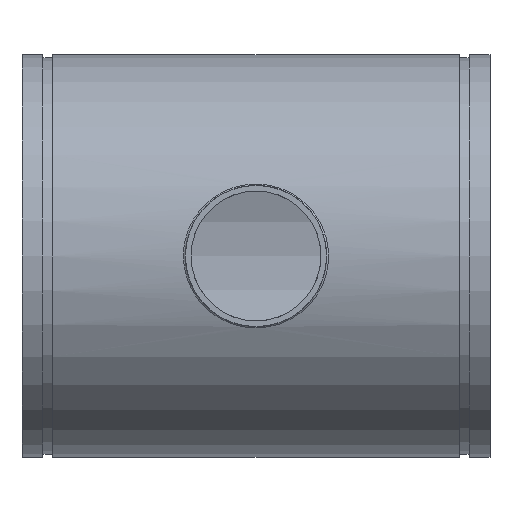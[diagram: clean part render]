
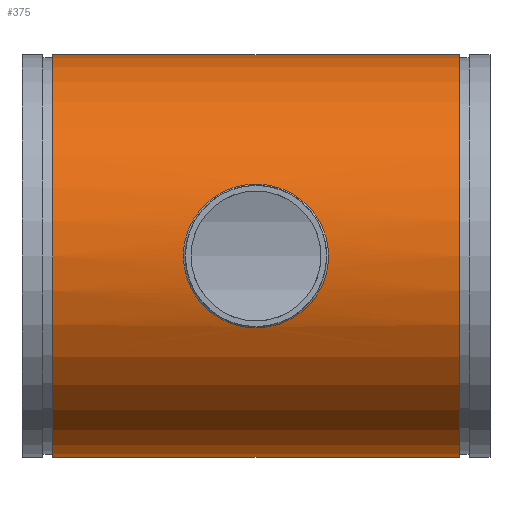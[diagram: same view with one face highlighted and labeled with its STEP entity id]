
A CAD part, front view. The second image highlights one B-rep face of the part: STEP entity #375.
In plain terms, the highlighted cylindrical face has radius 327.66 mm (diameter 655.32 mm), a full revolution.
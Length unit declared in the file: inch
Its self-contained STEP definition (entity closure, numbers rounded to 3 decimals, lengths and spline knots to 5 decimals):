
#54=FACE_BOUND('',#119,.T.);
#65=LINE('',#798,#76);
#76=VECTOR('',#483,12.9);
#87=CYLINDRICAL_SURFACE('',#415,12.9);
#98=FACE_OUTER_BOUND('',#118,.T.);
#118=EDGE_LOOP('',(#266,#267,#268,#269));
#119=EDGE_LOOP('',(#270));
#150=B_SPLINE_CURVE_WITH_KNOTS('',3,(#769,#770,#771,#772,#773,#774,#775,
#776,#777,#778,#779,#780,#781,#782,#783,#784,#785,#786,#787,#788,#789,#790,
#791,#792,#793),.UNSPECIFIED.,.T.,.F.,(4,1,1,1,1,1,1,1,1,1,1,1,1,1,1,1,
1,1,1,1,1,1,4),(-69.9195,-67.42237,-64.92525,-59.931,
-56.6015,-54.93675,-53.272,-49.9425,
-46.613,-43.2835,-39.954,-36.6245,
-33.295,-29.9655,-26.636,-23.3065,
-19.977,-16.6475,-13.318,-9.9885,
-4.99425,-2.49712,0.),.UNSPECIFIED.);
#154=CIRCLE('',#416,12.9);
#155=CIRCLE('',#417,12.9);
#182=VERTEX_POINT('',#736);
#185=VERTEX_POINT('',#795);
#186=VERTEX_POINT('',#797);
#219=EDGE_CURVE('',#182,#182,#150,.T.);
#220=EDGE_CURVE('',#185,#185,#154,.T.);
#221=EDGE_CURVE('',#185,#186,#65,.T.);
#222=EDGE_CURVE('',#186,#186,#155,.T.);
#266=ORIENTED_EDGE('',*,*,#220,.T.);
#267=ORIENTED_EDGE('',*,*,#221,.T.);
#268=ORIENTED_EDGE('',*,*,#222,.T.);
#269=ORIENTED_EDGE('',*,*,#221,.F.);
#270=ORIENTED_EDGE('',*,*,#219,.F.);
#375=ADVANCED_FACE('',(#98,#54),#87,.T.);
#415=AXIS2_PLACEMENT_3D('',#794,#479,#480);
#416=AXIS2_PLACEMENT_3D('',#796,#481,#482);
#417=AXIS2_PLACEMENT_3D('',#799,#484,#485);
#479=DIRECTION('center_axis',(-1.,0.,0.));
#480=DIRECTION('ref_axis',(0.,-1.,0.));
#481=DIRECTION('center_axis',(1.,0.,0.));
#482=DIRECTION('ref_axis',(0.,-1.,0.));
#483=DIRECTION('',(1.,0.,0.));
#484=DIRECTION('center_axis',(-1.,0.,0.));
#485=DIRECTION('ref_axis',(0.,-1.,0.));
#736=CARTESIAN_POINT('',(0.,-12.04992,-4.60537));
#769=CARTESIAN_POINT('Ctrl Pts',(0.,-12.04992,
-4.60537));
#770=CARTESIAN_POINT('Ctrl Pts',(0.35076,-12.04992,-4.60537));
#771=CARTESIAN_POINT('Ctrl Pts',(1.05198,-12.08061,-4.52619));
#772=CARTESIAN_POINT('Ctrl Pts',(2.37502,-12.24932,-4.06415));
#773=CARTESIAN_POINT('Ctrl Pts',(3.56841,-12.54413,-3.11881));
#774=CARTESIAN_POINT('Ctrl Pts',(4.2716,-12.76966,-1.91941));
#775=CARTESIAN_POINT('Ctrl Pts',(4.54867,-12.86416,-1.03655));
#776=CARTESIAN_POINT('Ctrl Pts',(4.68988,-12.91426,-0.11922));
#777=CARTESIAN_POINT('Ctrl Pts',(4.60041,-12.88181,1.05));
#778=CARTESIAN_POINT('Ctrl Pts',(4.08124,-12.7043,2.34679));
#779=CARTESIAN_POINT('Ctrl Pts',(3.20991,-12.44962,3.42516));
#780=CARTESIAN_POINT('Ctrl Pts',(2.05844,-12.20035,4.2062));
#781=CARTESIAN_POINT('Ctrl Pts',(0.71094,-12.04356,4.62257));
#782=CARTESIAN_POINT('Ctrl Pts',(-0.71093,-12.04346,4.62267));
#783=CARTESIAN_POINT('Ctrl Pts',(-2.05839,-12.2004,4.20616));
#784=CARTESIAN_POINT('Ctrl Pts',(-3.20991,-12.44961,3.42519));
#785=CARTESIAN_POINT('Ctrl Pts',(-4.08126,-12.70431,2.34677));
#786=CARTESIAN_POINT('Ctrl Pts',(-4.60033,-12.8818,1.05012));
#787=CARTESIAN_POINT('Ctrl Pts',(-4.70799,-12.92081,-0.35315));
#788=CARTESIAN_POINT('Ctrl Pts',(-4.38897,-12.80736,-1.71968));
#789=CARTESIAN_POINT('Ctrl Pts',(-3.56831,-12.54404,-3.11871));
#790=CARTESIAN_POINT('Ctrl Pts',(-2.37504,-12.24936,-4.06422));
#791=CARTESIAN_POINT('Ctrl Pts',(-1.05197,-12.08059,-4.52617));
#792=CARTESIAN_POINT('Ctrl Pts',(-0.35076,-12.04992,-4.60537));
#793=CARTESIAN_POINT('Ctrl Pts',(0.,-12.04992,
-4.60537));
#794=CARTESIAN_POINT('Origin',(15.,0.,0.));
#795=CARTESIAN_POINT('',(-13.035,12.9,0.));
#796=CARTESIAN_POINT('Origin',(-13.035,0.,0.));
#797=CARTESIAN_POINT('',(13.035,12.9,0.));
#798=CARTESIAN_POINT('',(15.,12.9,0.));
#799=CARTESIAN_POINT('Origin',(13.035,0.,0.));
